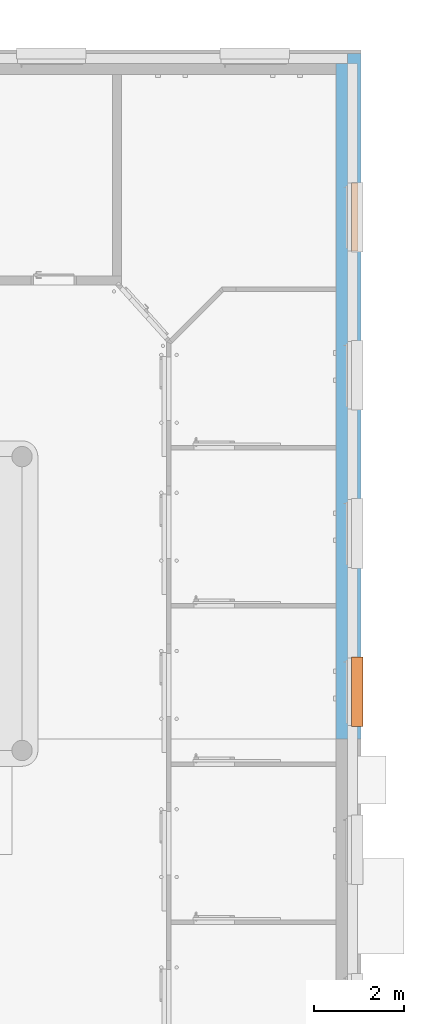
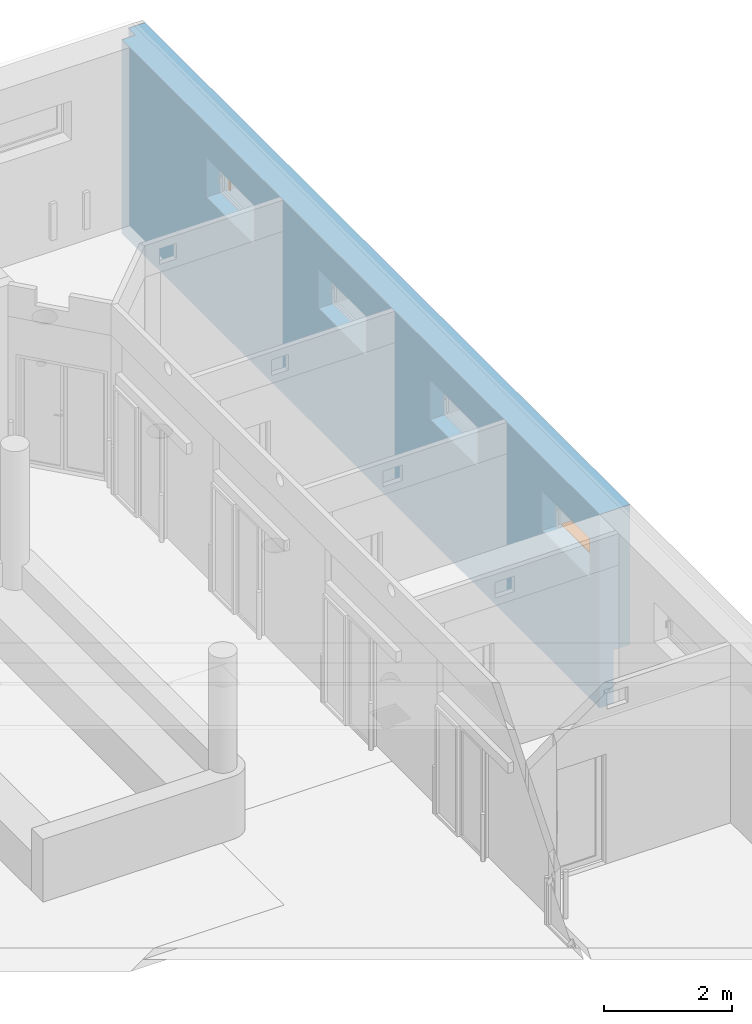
# One storey, part 120 of 140: 2 proxies, 4 openings, plus 1 element that does not belong to this part.
"""IFC4 building model written with IfcOpenShell, lengths in metres."""

from ifc_helpers import new_model, entity, si_unit, converted_unit, derived_unit, frame, origin, origin_with_axes, place, context, subcontext, project, spatial, polyline, outline, extrude, clip, bounded_halfspace, faceted_brep, source, transform, mapped, material, layer, layer_set, layer_usage, element, fill, save


model = new_model("IFC4")

# Units and contexts
model_context = context("Model", 3, precision=1e-05, world=origin())
body_context = subcontext(model_context, "Body", "Model", "MODEL_VIEW")
ifc_project = project(units=[si_unit("LENGTHUNIT", "METRE"), si_unit("AREAUNIT", "SQUARE_METRE"), si_unit("VOLUMEUNIT", "CUBIC_METRE"), si_unit("MASSUNIT", "GRAM", prefix="KILO"), converted_unit("PLANEANGLEUNIT", "DEGREE", entity("IfcPlaneAngleMeasure", 0.0174532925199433), si_unit("PLANEANGLEUNIT", "RADIAN"), dimensions=[0, 0, 0, 0, 0, 0, 0]), derived_unit("THERMALTRANSMITTANCEUNIT", [(si_unit("POWERUNIT", "WATT"), 1), (si_unit("THERMODYNAMICTEMPERATUREUNIT", "KELVIN"), -1), (si_unit("LENGTHUNIT", "METRE"), -2)]), derived_unit("VOLUMETRICFLOWRATEUNIT", [(si_unit("LENGTHUNIT", "METRE"), 3), (converted_unit("TIMEUNIT", "hour", entity("IfcTimeMeasure", 3600.0), si_unit("TIMEUNIT", "SECOND"), dimensions=[0, 0, 1, 0, 0, 0, 0]), -1), (si_unit("LENGTHUNIT", "METRE"), -1)])], contexts=[model_context])

# Site, building, storey
site_placement = place(None, origin())
site = spatial("IfcSite", under=ifc_project, at=site_placement, Name="3. ASŘ", CompositionType="ELEMENT")
building_placement = place(site_placement, origin())
building = spatial("IfcBuilding", under=site, at=building_placement, Name="Pavilon C", CompositionType="ELEMENT")
storey_placement = place(building_placement, origin())
storey = spatial("IfcBuildingStorey", under=building, at=storey_placement, Name="Půdorys 1.NP", CompositionType="ELEMENT", Elevation=0.0)

# Wall, openings, proxies
ifc_material_1 = material(Name="ZELEZOBETONOVÁ KCE")
ifc_layer_1 = layer(ifc_material_1, 0.25)
ifc_material_2 = material(Name="MINERÁLNÍ VATA")
ifc_layer_2 = layer(ifc_material_2, 0.3)
ifc_layer_set = layer_set([ifc_layer_1, ifc_layer_2])
ifc_layer_usage = layer_usage(ifc_layer_set, "AXIS2", "POSITIVE", 0.0)
wall_placement = place(storey_placement, frame((63.55, 32.55, -0.3), z_axis=(0.0, 0.0, 1.0), x_axis=(0.0, -1.0, 0.0)))
wall = element("IfcWall", 1, at=wall_placement, inside=storey, material=ifc_layer_usage, Name="ZELEZOBETONOVÁ KCE", context=body_context, shape_type="Clipping", body=[
    clip(extrude(outline(polyline([(-15.17, 0.55), (-15.17, 0.25), (-14.95, 0.25), (-14.95, 0.0), (0.0, 0.0), (0.0, 0.55), (-15.17, 0.55)])), frame((14.95, 0.0, 0.0), z_axis=(0.0, 0.0, 1.0), x_axis=(1.0, 0.0, 0.0)), (0.0, 0.0, 1.0), 3.7), bounded_halfspace(frame((5.892, 0.37, 1.02), z_axis=(0.0, 0.0, 1.0), x_axis=(0.0, -1.0, 0.0)), True, origin_with_axes(), polyline([(-0.22, 0.55), (-0.22, 0.25), (0.0, 0.249999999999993), (14.95, 0.249999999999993), (14.95, 0.55), (-0.22, 0.55)]))),
])
opening_1_placement = place(wall_placement, frame((11.15, 0.25, 2.3), z_axis=(0.0, -1.0, 0.0), x_axis=(0.0, 0.0, 1.0)))
element("IfcOpeningElement", 2, at=opening_1_placement, cuts=wall, Name="Okenní otvor", ObjectType="Opening", context=body_context, shape_type="SweptSolid", body=[
    extrude(outline(polyline([(0.0, 1.5), (0.75, 1.5), (0.75, 0.0), (0.0, 0.0), (0.0, 1.5)])), origin_with_axes(), (0.0, 0.0, 1.0), 0.25),
    extrude(outline(polyline([(0.0, 1.5), (0.75, 1.5), (0.75, 0.0), (0.0, 0.0), (0.0, 1.5)])), frame((0.0, 0.0, -0.3), z_axis=(0.0, 0.0, 1.0), x_axis=(1.0, 0.0, 0.0)), (0.0, 0.0, 1.0), 0.3),
])
opening_2_placement = place(wall_placement, frame((7.65000000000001, 0.25, 2.3), z_axis=(0.0, -1.0, 0.0), x_axis=(0.0, 0.0, 1.0)))
element("IfcOpeningElement", 3, at=opening_2_placement, cuts=wall, Name="Okenní otvor", ObjectType="Opening", context=body_context, shape_type="SweptSolid", body=[
    extrude(outline(polyline([(0.0, 1.5), (0.75, 1.5), (0.75, 0.0), (0.0, 0.0), (0.0, 1.5)])), origin_with_axes(), (0.0, 0.0, 1.0), 0.25),
    extrude(outline(polyline([(0.0, 1.5), (0.75, 1.5), (0.75, 0.0), (0.0, 0.0), (0.0, 1.5)])), frame((0.0, 0.0, -0.3), z_axis=(0.0, 0.0, 1.0), x_axis=(1.0, 0.0, 0.0)), (0.0, 0.0, 1.0), 0.3),
])
opening_3_placement = place(wall_placement, frame((4.15000000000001, 0.25, 2.3), z_axis=(0.0, -1.0, 0.0), x_axis=(0.0, 0.0, 1.0)))
opening_3 = element("IfcOpeningElement", 4, at=opening_3_placement, cuts=wall, Name="Okenní otvor", ObjectType="Opening", context=body_context, shape_type="SweptSolid", body=[
    extrude(outline(polyline([(0.0, 1.5), (0.75, 1.5), (0.75, 0.0), (0.0, 0.0), (0.0, 1.5)])), origin_with_axes(), (0.0, 0.0, 1.0), 0.25),
    extrude(outline(polyline([(0.0, 1.5), (0.75, 1.5), (0.75, 0.0), (0.0, 0.0), (0.0, 1.5)])), frame((0.0, 0.0, -0.3), z_axis=(0.0, 0.0, 1.0), x_axis=(1.0, 0.0, 0.0)), (0.0, 0.0, 1.0), 0.3),
])
opening_4_placement = place(wall_placement, frame((14.65, 0.25, 2.3), z_axis=(0.0, -1.0, 0.0), x_axis=(0.0, 0.0, 1.0)))
opening_4 = element("IfcOpeningElement", 5, at=opening_4_placement, cuts=wall, Name="Okenní otvor", ObjectType="Opening", context=body_context, shape_type="SweptSolid", body=[
    extrude(outline(polyline([(0.0, 1.5), (0.75, 1.5), (0.75, 0.0), (0.0, 0.0), (0.0, 1.5)])), origin_with_axes(), (0.0, 0.0, 1.0), 0.25),
    extrude(outline(polyline([(0.0, 1.5), (0.75, 1.5), (0.75, 0.0), (0.0, 0.0), (0.0, 1.5)])), frame((0.0, 0.0, -0.3), z_axis=(0.0, 0.0, 1.0), x_axis=(1.0, 0.0, 0.0)), (0.0, 0.0, 1.0), 0.3),
])
shared_shape_1 = source(origin_with_axes(), body_context, "Body", "Brep", [
    faceted_brep([(-7.27595761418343e-15, -0.231999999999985, 0.75), (-7.27595761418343e-15, -0.229999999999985, 0.75), (-7.27595761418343e-15, -0.229999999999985, 0.948), (-7.27595761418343e-15, -0.0939999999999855, 0.948), (-7.27595761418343e-15, -0.0939999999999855, 0.75), (-7.27595761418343e-15, -0.0919999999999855, 0.75), (-7.27595761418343e-15, -0.0919999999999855, 0.95), (-7.27595761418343e-15, -0.231999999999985, 0.95), (1.49999999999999, -0.229999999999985, 0.75), (1.49999999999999, -0.231999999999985, 0.75), (1.49999999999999, -0.231999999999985, 0.95), (1.49999999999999, -0.0919999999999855, 0.95), (1.49999999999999, -0.0919999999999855, 0.75), (1.49999999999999, -0.0939999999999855, 0.75), (1.49999999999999, -0.0939999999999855, 0.948), (1.49999999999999, -0.229999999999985, 0.948)], [[[0, 1, 2, 3, 4, 5, 6, 7]], [[8, 9, 10, 11, 12, 13, 14, 15]], [[1, 0, 9, 8]], [[2, 1, 8, 15]], [[3, 2, 15, 14]], [[4, 3, 14, 13]], [[5, 4, 13, 12]], [[6, 5, 12, 11]], [[7, 6, 11, 10]], [[0, 7, 10, 9]]], orient=[[False], [False], [False], [False], [False], [False], [False], [False], [False], [False]]),
    faceted_brep([(-7.27595761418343e-15, -0.229999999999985, 0.75), (-7.27595761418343e-15, -0.0939999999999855, 0.75), (-7.27595761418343e-15, -0.0939999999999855, 0.948), (-7.27595761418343e-15, -0.229999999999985, 0.948), (0.00199999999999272, -0.0939999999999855, 0.75), (0.00199999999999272, -0.229999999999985, 0.75), (0.00199999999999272, -0.229999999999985, 0.948), (0.00199999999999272, -0.0939999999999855, 0.948)], [[[0, 1, 2, 3]], [[4, 5, 6, 7]], [[1, 0, 5, 4]], [[2, 1, 4, 7]], [[3, 2, 7, 6]], [[0, 3, 6, 5]]], orient=[[False], [False], [False], [False], [False], [False]]),
    faceted_brep([(1.49799999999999, -0.229999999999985, 0.75), (1.49799999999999, -0.0939999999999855, 0.75), (1.49799999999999, -0.0939999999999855, 0.948), (1.49799999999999, -0.229999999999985, 0.948), (1.49999999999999, -0.0939999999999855, 0.75), (1.49999999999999, -0.229999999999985, 0.75), (1.49999999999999, -0.229999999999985, 0.948), (1.49999999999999, -0.0939999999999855, 0.948)], [[[0, 1, 2, 3]], [[4, 5, 6, 7]], [[1, 0, 5, 4]], [[2, 1, 4, 7]], [[3, 2, 7, 6]], [[0, 3, 6, 5]]], orient=[[False], [False], [False], [False], [False], [False]]),
    faceted_brep([(0.00199999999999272, -0.151999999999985, 0.0), (0.00199999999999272, -0.171999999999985, 0.0), (0.0419999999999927, -0.171999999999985, 0.0), (0.0419999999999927, -0.151999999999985, 0.0), (0.00199999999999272, -0.171999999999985, 0.769), (0.00199999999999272, -0.151999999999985, 0.769), (0.0419999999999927, -0.151999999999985, 0.769), (0.0419999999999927, -0.171999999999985, 0.769)], [[[0, 1, 2, 3]], [[4, 5, 6, 7]], [[1, 0, 5, 4]], [[2, 1, 4, 7]], [[3, 2, 7, 6]], [[0, 3, 6, 5]]], orient=[[False], [False], [False], [False], [False], [False]]),
    faceted_brep([(1.45799999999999, -0.151999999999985, 0.0), (1.45799999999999, -0.171999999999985, 0.0), (1.49799999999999, -0.171999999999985, 0.0), (1.49799999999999, -0.151999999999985, 0.0), (1.45799999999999, -0.171999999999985, 0.769), (1.45799999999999, -0.151999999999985, 0.769), (1.49799999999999, -0.151999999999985, 0.769), (1.49799999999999, -0.171999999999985, 0.769)], [[[0, 1, 2, 3]], [[4, 5, 6, 7]], [[1, 0, 5, 4]], [[2, 1, 4, 7]], [[3, 2, 7, 6]], [[0, 3, 6, 5]]], orient=[[False], [False], [False], [False], [False], [False]]),
    faceted_brep([(0.0419999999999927, -0.121999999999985, 0.6021), (0.0419999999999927, -0.201999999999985, 0.6021), (0.0419999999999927, -0.201999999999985, 0.5871), (0.0419999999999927, -0.121999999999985, 0.5871), (1.45799999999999, -0.201999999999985, 0.6021), (1.45799999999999, -0.121999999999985, 0.6021), (1.45799999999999, -0.121999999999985, 0.5871), (1.45799999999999, -0.201999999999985, 0.5871)], [[[0, 1, 2, 3]], [[4, 5, 6, 7]], [[1, 0, 5, 4]], [[2, 1, 4, 7]], [[3, 2, 7, 6]], [[0, 3, 6, 5]]], orient=[[False], [False], [False], [False], [False], [False]]),
    faceted_brep([(0.0419999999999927, -0.121999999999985, 0.6031), (0.0419999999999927, -0.201999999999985, 0.6031), (0.0419999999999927, -0.201999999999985, 0.6021), (0.0419999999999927, -0.121999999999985, 0.6021), (1.45799999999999, -0.201999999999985, 0.6031), (1.45799999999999, -0.121999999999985, 0.6031), (1.45799999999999, -0.121999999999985, 0.6021), (1.45799999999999, -0.201999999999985, 0.6021)], [[[0, 1, 2, 3]], [[4, 5, 6, 7]], [[1, 0, 5, 4]], [[2, 1, 4, 7]], [[3, 2, 7, 6]], [[0, 3, 6, 5]]], orient=[[False], [False], [False], [False], [False], [False]]),
    faceted_brep([(0.0419999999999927, -0.121999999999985, 0.6041), (0.0419999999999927, -0.201999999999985, 0.6041), (0.0419999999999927, -0.201999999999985, 0.6031), (0.0419999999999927, -0.121999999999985, 0.6031), (1.45799999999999, -0.201999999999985, 0.6041), (1.45799999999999, -0.121999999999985, 0.6041), (1.45799999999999, -0.121999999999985, 0.6031), (1.45799999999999, -0.201999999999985, 0.6031)], [[[0, 1, 2, 3]], [[4, 5, 6, 7]], [[1, 0, 5, 4]], [[2, 1, 4, 7]], [[3, 2, 7, 6]], [[0, 3, 6, 5]]], orient=[[False], [False], [False], [False], [False], [False]]),
    faceted_brep([(0.0419999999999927, -0.121999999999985, 0.6051), (0.0419999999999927, -0.201999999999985, 0.6051), (0.0419999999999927, -0.201999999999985, 0.6041), (0.0419999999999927, -0.121999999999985, 0.6041), (1.45799999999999, -0.201999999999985, 0.6051), (1.45799999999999, -0.121999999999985, 0.6051), (1.45799999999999, -0.121999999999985, 0.6041), (1.45799999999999, -0.201999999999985, 0.6041)], [[[0, 1, 2, 3]], [[4, 5, 6, 7]], [[1, 0, 5, 4]], [[2, 1, 4, 7]], [[3, 2, 7, 6]], [[0, 3, 6, 5]]], orient=[[False], [False], [False], [False], [False], [False]]),
    faceted_brep([(0.0419999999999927, -0.121999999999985, 0.6061), (0.0419999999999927, -0.201999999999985, 0.6061), (0.0419999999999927, -0.201999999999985, 0.6051), (0.0419999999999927, -0.121999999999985, 0.6051), (1.45799999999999, -0.201999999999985, 0.6061), (1.45799999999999, -0.121999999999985, 0.6061), (1.45799999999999, -0.121999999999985, 0.6051), (1.45799999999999, -0.201999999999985, 0.6051)], [[[0, 1, 2, 3]], [[4, 5, 6, 7]], [[1, 0, 5, 4]], [[2, 1, 4, 7]], [[3, 2, 7, 6]], [[0, 3, 6, 5]]], orient=[[False], [False], [False], [False], [False], [False]]),
    faceted_brep([(0.0419999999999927, -0.121999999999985, 0.6071), (0.0419999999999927, -0.201999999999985, 0.6071), (0.0419999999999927, -0.201999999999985, 0.6061), (0.0419999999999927, -0.121999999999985, 0.6061), (1.45799999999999, -0.201999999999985, 0.6071), (1.45799999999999, -0.121999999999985, 0.6071), (1.45799999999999, -0.121999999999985, 0.6061), (1.45799999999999, -0.201999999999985, 0.6061)], [[[0, 1, 2, 3]], [[4, 5, 6, 7]], [[1, 0, 5, 4]], [[2, 1, 4, 7]], [[3, 2, 7, 6]], [[0, 3, 6, 5]]], orient=[[False], [False], [False], [False], [False], [False]]),
    faceted_brep([(0.0419999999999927, -0.121999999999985, 0.6081), (0.0419999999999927, -0.201999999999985, 0.6081), (0.0419999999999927, -0.201999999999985, 0.6071), (0.0419999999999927, -0.121999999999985, 0.6071), (1.45799999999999, -0.201999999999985, 0.6081), (1.45799999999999, -0.121999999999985, 0.6081), (1.45799999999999, -0.121999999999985, 0.6071), (1.45799999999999, -0.201999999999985, 0.6071)], [[[0, 1, 2, 3]], [[4, 5, 6, 7]], [[1, 0, 5, 4]], [[2, 1, 4, 7]], [[3, 2, 7, 6]], [[0, 3, 6, 5]]], orient=[[False], [False], [False], [False], [False], [False]]),
    faceted_brep([(0.0419999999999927, -0.121999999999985, 0.6091), (0.0419999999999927, -0.201999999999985, 0.6091), (0.0419999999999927, -0.201999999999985, 0.6081), (0.0419999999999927, -0.121999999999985, 0.6081), (1.45799999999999, -0.201999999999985, 0.6091), (1.45799999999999, -0.121999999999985, 0.6091), (1.45799999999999, -0.121999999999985, 0.6081), (1.45799999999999, -0.201999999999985, 0.6081)], [[[0, 1, 2, 3]], [[4, 5, 6, 7]], [[1, 0, 5, 4]], [[2, 1, 4, 7]], [[3, 2, 7, 6]], [[0, 3, 6, 5]]], orient=[[False], [False], [False], [False], [False], [False]]),
    faceted_brep([(0.0419999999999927, -0.121999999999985, 0.6101), (0.0419999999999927, -0.201999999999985, 0.6101), (0.0419999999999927, -0.201999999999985, 0.6091), (0.0419999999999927, -0.121999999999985, 0.6091), (1.45799999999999, -0.201999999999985, 0.6101), (1.45799999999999, -0.121999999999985, 0.6101), (1.45799999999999, -0.121999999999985, 0.6091), (1.45799999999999, -0.201999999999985, 0.6091)], [[[0, 1, 2, 3]], [[4, 5, 6, 7]], [[1, 0, 5, 4]], [[2, 1, 4, 7]], [[3, 2, 7, 6]], [[0, 3, 6, 5]]], orient=[[False], [False], [False], [False], [False], [False]]),
    faceted_brep([(0.0419999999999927, -0.121999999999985, 0.6111), (0.0419999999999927, -0.201999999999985, 0.6111), (0.0419999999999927, -0.201999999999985, 0.6101), (0.0419999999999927, -0.121999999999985, 0.6101), (1.45799999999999, -0.201999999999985, 0.6111), (1.45799999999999, -0.121999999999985, 0.6111), (1.45799999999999, -0.121999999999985, 0.6101), (1.45799999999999, -0.201999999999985, 0.6101)], [[[0, 1, 2, 3]], [[4, 5, 6, 7]], [[1, 0, 5, 4]], [[2, 1, 4, 7]], [[3, 2, 7, 6]], [[0, 3, 6, 5]]], orient=[[False], [False], [False], [False], [False], [False]]),
    faceted_brep([(0.0419999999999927, -0.121999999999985, 0.6121), (0.0419999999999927, -0.201999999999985, 0.6121), (0.0419999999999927, -0.201999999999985, 0.6111), (0.0419999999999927, -0.121999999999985, 0.6111), (1.45799999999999, -0.201999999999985, 0.6121), (1.45799999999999, -0.121999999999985, 0.6121), (1.45799999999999, -0.121999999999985, 0.6111), (1.45799999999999, -0.201999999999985, 0.6111)], [[[0, 1, 2, 3]], [[4, 5, 6, 7]], [[1, 0, 5, 4]], [[2, 1, 4, 7]], [[3, 2, 7, 6]], [[0, 3, 6, 5]]], orient=[[False], [False], [False], [False], [False], [False]]),
    faceted_brep([(0.0419999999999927, -0.121999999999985, 0.6131), (0.0419999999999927, -0.201999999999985, 0.6131), (0.0419999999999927, -0.201999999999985, 0.6121), (0.0419999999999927, -0.121999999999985, 0.6121), (1.45799999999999, -0.201999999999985, 0.6131), (1.45799999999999, -0.121999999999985, 0.6131), (1.45799999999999, -0.121999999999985, 0.6121), (1.45799999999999, -0.201999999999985, 0.6121)], [[[0, 1, 2, 3]], [[4, 5, 6, 7]], [[1, 0, 5, 4]], [[2, 1, 4, 7]], [[3, 2, 7, 6]], [[0, 3, 6, 5]]], orient=[[False], [False], [False], [False], [False], [False]]),
    faceted_brep([(0.0419999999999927, -0.121999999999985, 0.6141), (0.0419999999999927, -0.201999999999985, 0.6141), (0.0419999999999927, -0.201999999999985, 0.6131), (0.0419999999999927, -0.121999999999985, 0.6131), (1.45799999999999, -0.201999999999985, 0.6141), (1.45799999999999, -0.121999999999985, 0.6141), (1.45799999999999, -0.121999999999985, 0.6131), (1.45799999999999, -0.201999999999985, 0.6131)], [[[0, 1, 2, 3]], [[4, 5, 6, 7]], [[1, 0, 5, 4]], [[2, 1, 4, 7]], [[3, 2, 7, 6]], [[0, 3, 6, 5]]], orient=[[False], [False], [False], [False], [False], [False]]),
    faceted_brep([(0.0419999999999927, -0.121999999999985, 0.6151), (0.0419999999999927, -0.201999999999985, 0.6151), (0.0419999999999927, -0.201999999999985, 0.6141), (0.0419999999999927, -0.121999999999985, 0.6141), (1.45799999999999, -0.201999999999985, 0.6151), (1.45799999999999, -0.121999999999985, 0.6151), (1.45799999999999, -0.121999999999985, 0.6141), (1.45799999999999, -0.201999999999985, 0.6141)], [[[0, 1, 2, 3]], [[4, 5, 6, 7]], [[1, 0, 5, 4]], [[2, 1, 4, 7]], [[3, 2, 7, 6]], [[0, 3, 6, 5]]], orient=[[False], [False], [False], [False], [False], [False]]),
    faceted_brep([(0.0419999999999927, -0.121999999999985, 0.6161), (0.0419999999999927, -0.201999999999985, 0.6161), (0.0419999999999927, -0.201999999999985, 0.6151), (0.0419999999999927, -0.121999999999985, 0.6151), (1.45799999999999, -0.201999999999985, 0.6161), (1.45799999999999, -0.121999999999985, 0.6161), (1.45799999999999, -0.121999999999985, 0.6151), (1.45799999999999, -0.201999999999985, 0.6151)], [[[0, 1, 2, 3]], [[4, 5, 6, 7]], [[1, 0, 5, 4]], [[2, 1, 4, 7]], [[3, 2, 7, 6]], [[0, 3, 6, 5]]], orient=[[False], [False], [False], [False], [False], [False]]),
    faceted_brep([(0.0419999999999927, -0.123299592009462, 0.645125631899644), (0.0419999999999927, -0.200941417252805, 0.625844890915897), (0.0419999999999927, -0.200700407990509, 0.624874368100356), (0.0419999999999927, -0.123058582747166, 0.644155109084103), (1.45799999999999, -0.200941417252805, 0.625844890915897), (1.45799999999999, -0.123299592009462, 0.645125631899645), (1.45799999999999, -0.123058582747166, 0.644155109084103), (1.45799999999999, -0.200700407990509, 0.624874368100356)], [[[0, 1, 2, 3]], [[4, 5, 6, 7]], [[1, 0, 5, 4]], [[2, 1, 4, 7]], [[3, 2, 7, 6]], [[0, 3, 6, 5]]], orient=[[False], [False], [False], [False], [False], [False]]),
    faceted_brep([(0.0419999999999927, -0.127608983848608, 0.700433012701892), (0.0419999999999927, -0.196891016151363, 0.660433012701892), (0.0419999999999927, -0.196391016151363, 0.659566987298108), (0.0419999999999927, -0.127108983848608, 0.699566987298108), (1.45799999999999, -0.196891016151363, 0.660433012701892), (1.45799999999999, -0.127608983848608, 0.700433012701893), (1.45799999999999, -0.127108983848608, 0.699566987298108), (1.45799999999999, -0.196391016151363, 0.659566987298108)], [[[0, 1, 2, 3]], [[4, 5, 6, 7]], [[1, 0, 5, 4]], [[2, 1, 4, 7]], [[3, 2, 7, 6]], [[0, 3, 6, 5]]], orient=[[False], [False], [False], [False], [False], [False]]),
    faceted_brep([(0.0419999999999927, -0.127608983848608, 0.745433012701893), (0.0419999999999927, -0.196891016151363, 0.705433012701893), (0.0419999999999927, -0.196391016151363, 0.704566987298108), (0.0419999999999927, -0.127108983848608, 0.744566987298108), (1.45799999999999, -0.196891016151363, 0.705433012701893), (1.45799999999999, -0.127608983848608, 0.745433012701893), (1.45799999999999, -0.127108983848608, 0.744566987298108), (1.45799999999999, -0.196391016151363, 0.704566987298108)], [[[0, 1, 2, 3]], [[4, 5, 6, 7]], [[1, 0, 5, 4]], [[2, 1, 4, 7]], [[3, 2, 7, 6]], [[0, 3, 6, 5]]], orient=[[False], [False], [False], [False], [False], [False]]),
])
proxy_1_placement = place(opening_3_placement, frame((0.0, 0.0, 0.0), z_axis=(1.0, 0.0, 0.0), x_axis=(0.0, 1.0, 0.0)))
proxy_1 = element("IfcBuildingElementProxy", 6, at=proxy_1_placement, inside=storey, Name="Žaluzie", context=body_context, shape_type="MappedRepresentation", body=[
    mapped(shared_shape_1, transform((0.0, 0.0, 0.0), x_axis=(1.0, 0.0, 0.0), y_axis=(0.0, 1.0, 0.0), z_axis=(0.0, 0.0, 1.0), scale=1.0)),
])
fill(opening_3, proxy_1)
ifc_material_3 = material(Name="HLINÍKOVÝ PLECH ELOXOVANÝ")
shared_shape_2 = source(origin_with_axes(), body_context, "Body", "Brep", [
    faceted_brep([(-7.27595761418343e-15, -0.299999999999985, 0.0), (-7.27595761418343e-15, -0.0919999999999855, 0.0), (-7.27595761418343e-15, -0.0919999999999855, 0.005), (-7.27595761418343e-15, -0.299999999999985, 0.005), (1.49999999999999, -0.299999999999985, 0.0), (1.49999999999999, -0.299999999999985, 0.005), (1.49999999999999, -0.0919999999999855, 0.005), (1.49999999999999, -0.0919999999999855, 0.0), (-0.0200000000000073, -0.299999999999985, 0.0), (-0.0200000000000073, -0.334999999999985, 0.0), (1.51999999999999, -0.334999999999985, 0.0), (1.51999999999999, -0.299999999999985, 0.0), (1.51999999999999, -0.299999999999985, 0.005), (1.51999999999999, -0.339999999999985, 0.005), (-0.0200000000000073, -0.339999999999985, 0.005), (-0.0200000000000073, -0.299999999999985, 0.005), (-0.0200000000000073, -0.339999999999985, -0.025), (-0.0200000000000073, -0.334999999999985, -0.025), (1.51999999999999, -0.334999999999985, -0.025), (1.51999999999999, -0.339999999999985, -0.025)], [[[0, 1, 2, 3]], [[4, 5, 6, 7]], [[1, 0, 8, 9, 10, 11, 4, 7]], [[2, 1, 7, 6]], [[3, 2, 6, 5, 12, 13, 14, 15]], [[8, 15, 14, 16, 17, 9]], [[11, 10, 18, 19, 13, 12]], [[15, 8, 0, 3]], [[5, 4, 11, 12]], [[16, 14, 13, 19]], [[17, 16, 19, 18]], [[9, 17, 18, 10]]], orient=[[False], [False], [False], [False], [False], [False], [False], [False], [False], [False], [False], [False]]),
    faceted_brep([(-0.0200000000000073, -0.299999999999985, 0.0), (-0.0200000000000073, -0.0919999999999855, 0.0), (-0.0200000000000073, -0.0919999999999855, 0.005), (-0.0200000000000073, -0.299999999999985, 0.005), (-7.27595761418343e-15, -0.299999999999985, 0.0), (-7.27595761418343e-15, -0.299999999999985, 0.005), (-7.27595761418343e-15, -0.0919999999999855, 0.005), (-7.27595761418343e-15, -0.0919999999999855, 0.0)], [[[0, 1, 2, 3]], [[4, 5, 6, 7]], [[1, 0, 4, 7]], [[2, 1, 7, 6]], [[3, 2, 6, 5]], [[0, 3, 5, 4]]], orient=[[False], [False], [False], [False], [False], [False]]),
    faceted_brep([(1.49999999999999, -0.299999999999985, 0.0), (1.49999999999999, -0.0919999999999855, 0.0), (1.49999999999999, -0.0919999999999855, 0.005), (1.49999999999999, -0.299999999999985, 0.005), (1.51999999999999, -0.299999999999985, 0.0), (1.51999999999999, -0.299999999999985, 0.005), (1.51999999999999, -0.0919999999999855, 0.005), (1.51999999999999, -0.0919999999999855, 0.0)], [[[0, 1, 2, 3]], [[4, 5, 6, 7]], [[1, 0, 4, 7]], [[2, 1, 7, 6]], [[3, 2, 6, 5]], [[0, 3, 5, 4]]], orient=[[False], [False], [False], [False], [False], [False]]),
])
proxy_2_placement = place(opening_4_placement, frame((0.0, 0.0, 0.0), z_axis=(1.0, 0.0, 0.0), x_axis=(0.0, 1.0, 0.0)))
proxy_2 = element("IfcBuildingElementProxy", 7, at=proxy_2_placement, inside=storey, material=ifc_material_3, Name="Parapet vnější", context=body_context, shape_type="MappedRepresentation", body=[
    mapped(shared_shape_2, transform((0.0, 0.0, 0.0), x_axis=(1.0, 0.0, 0.0), y_axis=(0.0, 1.0, 0.0), z_axis=(0.0, 0.0, 1.0), scale=1.0)),
])
fill(opening_4, proxy_2)

save(model, "model.ifc")
